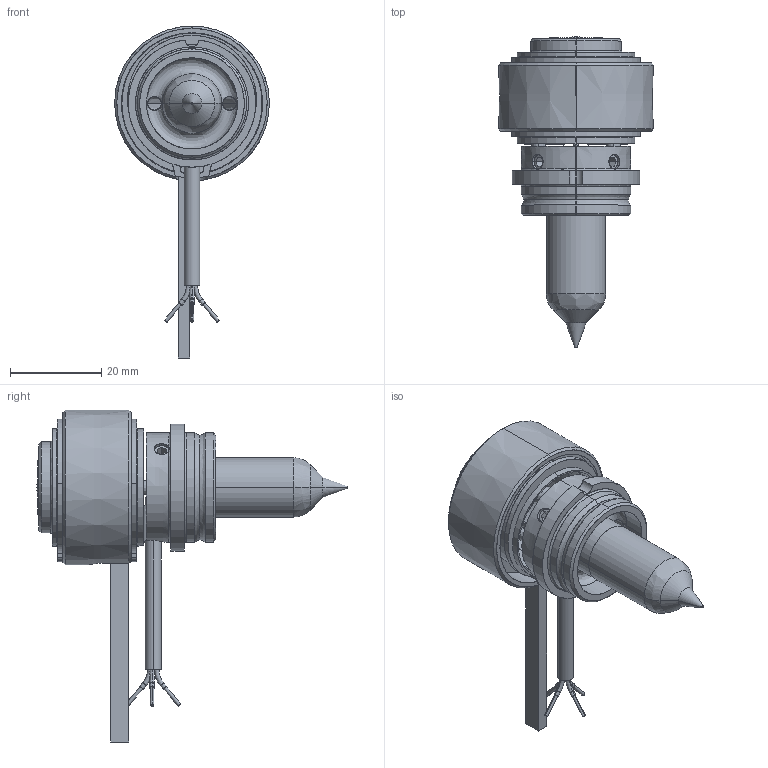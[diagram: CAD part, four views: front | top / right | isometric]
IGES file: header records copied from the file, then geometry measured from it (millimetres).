
Start section: SolidWorks IGES file using analytic representation for surfaces
Global section: file name: C:\Documents and Settings\ws-20\Desktop\TEM\UGGS2510-M-0 [Øf-0.47].IGS; native system: SolidWorks 2012; preprocessor: SolidWorks 2012; author: ws-20; date: 120516.092549; units: millimetre
Bounding box: 34 x 68.3 x 72.9 mm (x, y, z)
Surface area: 14568.3 mm2 (no closed solid volume)
Topology: 0 solids, 0 shells, 207 faces, 2899 edges, 2893 vertices
Faces by surface type: revolution 123, bspline 84
